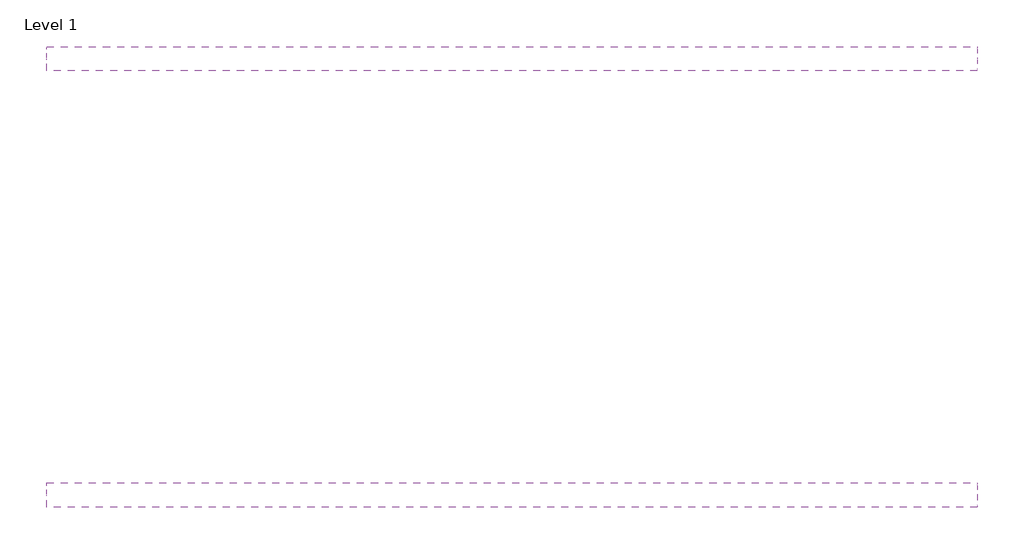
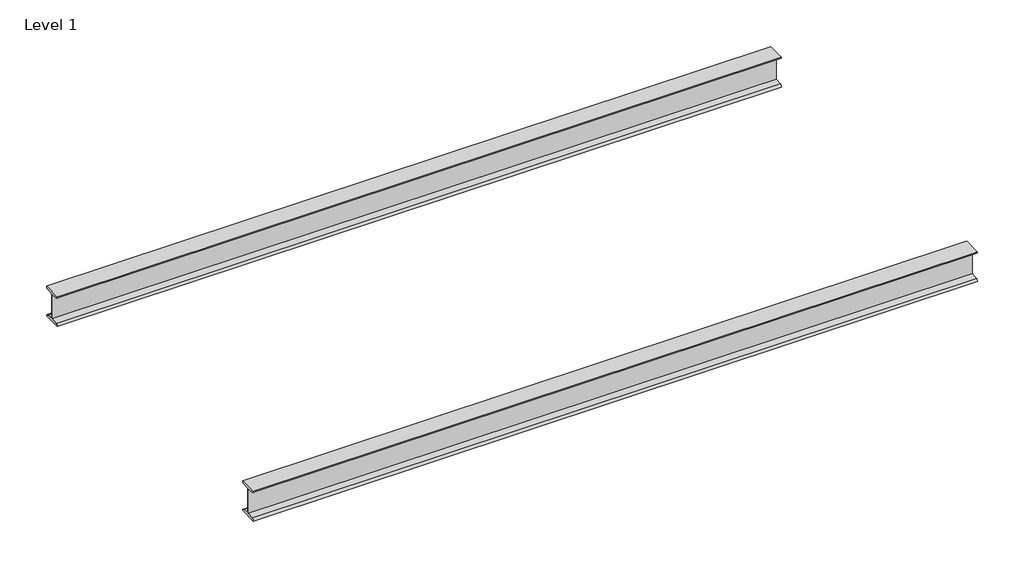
# One storey: 2 beams.
"""IFC4 building model written with IfcOpenShell, lengths in millimetres."""

from ifc_helpers import new_model, si_unit, origin, place, context, project, spatial, transform, mapped, element, save
from components import s_american_standard_s5x10_09af4045

model = new_model("IFC4")

# Units and contexts
model_context = context("Model", 3, world=origin())
ifc_project = project(units=[si_unit("LENGTHUNIT", "METRE", prefix="MILLI")], contexts=[model_context])

# Site, building, storey
site = spatial("IfcSite", under=ifc_project)
building = spatial("IfcBuilding", under=site)
storey = spatial("IfcBuildingStorey", under=building, Name="Level 1", Elevation=0.0)

# Beams
placement = place(None, origin())
s_american_standard_s5x10_shape = s_american_standard_s5x10_09af4045(model_context)
element("IfcBeam", 1, ObjectType="S-American Standard : S5X10", at=placement, inside=storey, context=model_context, shape_type="MappedRepresentation", body=[
    mapped(s_american_standard_s5x10_shape, transform((7132.7687405, -4114.3387295, 2984.5), x_axis=(1.0, 0.0, 0.0), y_axis=(0.0, 1.0, 0.0), z_axis=(0.0, 0.0, 1.0))),
])
element("IfcBeam", 2, ObjectType="S-American Standard : S5X10", at=placement, inside=storey, context=model_context, shape_type="MappedRepresentation", body=[
    mapped(s_american_standard_s5x10_shape, transform((7132.7687405, -5485.9387295, 2984.5), x_axis=(1.0, 0.0, 0.0), y_axis=(0.0, 1.0, 0.0), z_axis=(0.0, 0.0, 1.0))),
])

save(model, "model.ifc")
